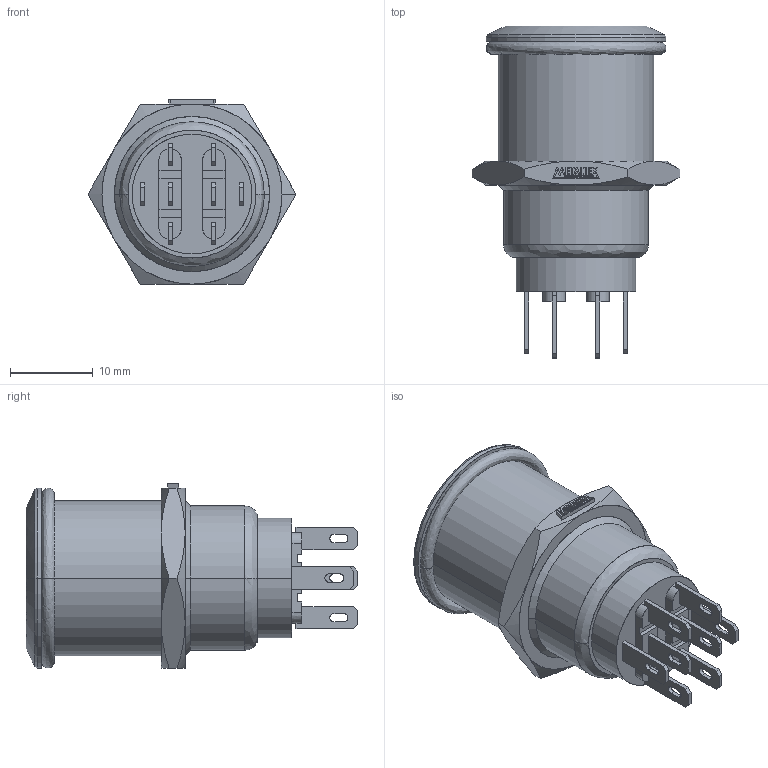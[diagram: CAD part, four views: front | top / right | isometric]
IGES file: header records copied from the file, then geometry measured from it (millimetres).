
Start section: SolidWorks IGES file using analytic representation for surfaces
Global section: file name: D:\X - Arquivos\PROEX\Empresas\P11 - METALTEX\01 - Produtos\IGES\Segunda remessa\AV19IR-2G.IGS; native system: SolidWorks 2012; preprocessor: SolidWorks 2012; author: Usuario; date: 180117.122940; units: millimetre
Bounding box: 25.2 x 40.2 x 22.32 mm (x, y, z)
Surface area: 3652.6 mm2 (no closed solid volume)
Topology: 0 solids, 0 shells, 288 faces, 2450 edges, 2450 vertices
Faces by surface type: bspline 220, revolution 68
